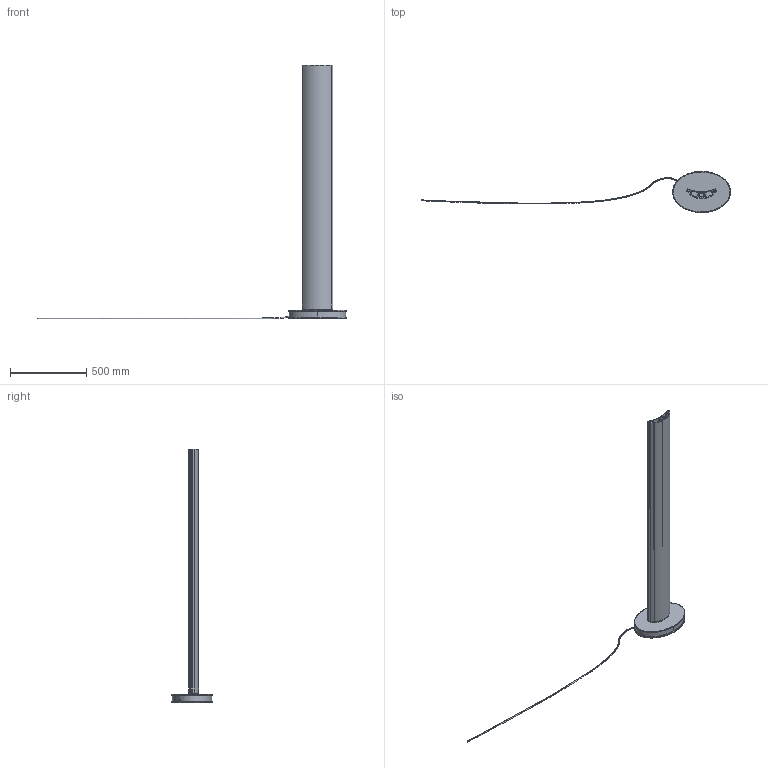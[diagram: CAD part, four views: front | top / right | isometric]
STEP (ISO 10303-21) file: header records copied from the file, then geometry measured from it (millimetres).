
FILE_DESCRIPTION(/* description */ (''),/* implementation_level */ '2;1');
FILE_NAME(/* name */ 'FSTIS1755LE',/* time_stamp */ '2026-03-04T16:15:51+01:00',/* author */ (''),/* organization */ (''),/* preprocessor_version */ 'ST-DEVELOPER v16.5',/* originating_system */ 'Rhino 7.38',/* authorisation */ '');
FILE_SCHEMA (('CONFIG_CONTROL_DESIGN'));
Length unit declared in the file: millimetre
Products named in the file (1): Document
Bounding box: 2027.76 x 270 x 1665 mm (x, y, z)
Volume: 8087524.5 mm3; surface area: 2343292.5 mm2
Topology: 5 solids, 5 shells, 196 faces, 525 edges, 346 vertices
Faces by surface type: plane 109, cylinder 67, bspline 20
Entity records: 19639 total; most frequent: CARTESIAN_POINT 16146, ORIENTED_EDGE 1050, EDGE_CURVE 525, VERTEX_POINT 346, B_SPLINE_CURVE_WITH_KNOTS 328, EDGE_LOOP 209, ADVANCED_FACE 196, FACE_OUTER_BOUND 196
